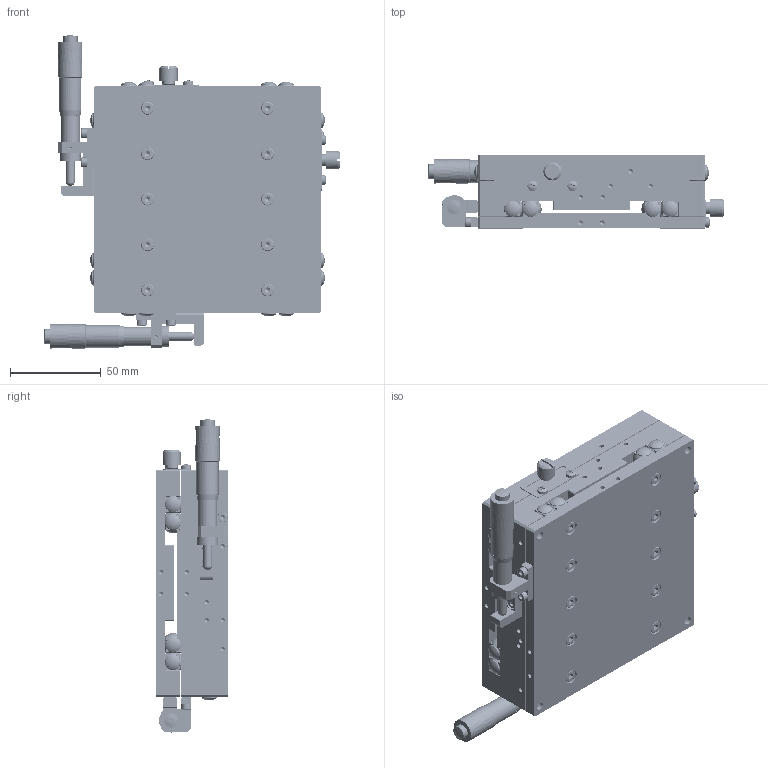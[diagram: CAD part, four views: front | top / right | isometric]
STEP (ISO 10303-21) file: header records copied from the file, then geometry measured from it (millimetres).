
FILE_DESCRIPTION (( 'STEP AP203' ), '1' );
FILE_NAME ('BPEB125.STEP', '2024-07-27T03:57:35', ( 'Windows User' ), ( 'P R C' ), 'SwSTEP 2.0', 'SolidWorks 2024', '' );
FILE_SCHEMA (( 'CONFIG_CONTROL_DESIGN' ));
Products named in the file (1): BPEB125
Bounding box: 163.05 x 40 x 172.2 mm (x, y, z)
Volume: 553369.6 mm3; surface area: 247685.5 mm2
Topology: 72 solids, 72 shells, 4396 faces, 10888 edges, 6972 vertices
Faces by surface type: plane 1820, bspline 1124, cylinder 824, cone 568, torus 54, sphere 6
Full cylindrical faces by diameter (mm): 2.5 x70, 2.95 x18, 3 x80, 3.1 x4, 3.2 x4, 3.3 x72, 3.4 x4, 4 x30, 4.5 x48, 5 x4, 5.5 x6, 5.6 x4, 6 x44, 7 x32, 8 x52, 8.1 x2, 9 x2, 9.5 x4, 10 x2, 10.373 x2, 11.5 x2, 12.25 x2, 13.3 x2
Entity records: 208329 total; most frequent: CARTESIAN_POINT 119347, ORIENTED_EDGE 19492, DIRECTION 13850, EDGE_CURVE 9746, VERTEX_POINT 6750, EDGE_LOOP 6180, AXIS2_PLACEMENT_3D 5167, FACE_OUTER_BOUND 4896
